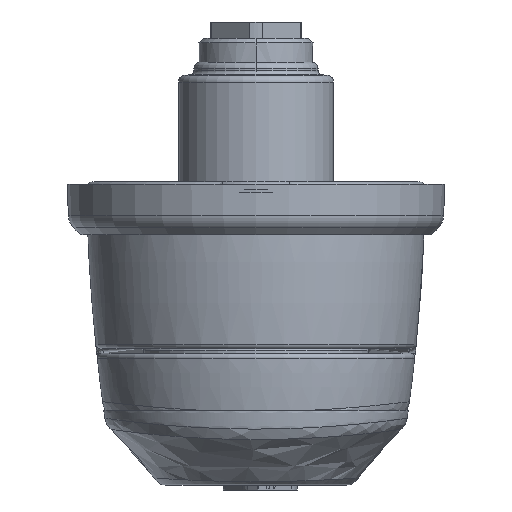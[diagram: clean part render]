
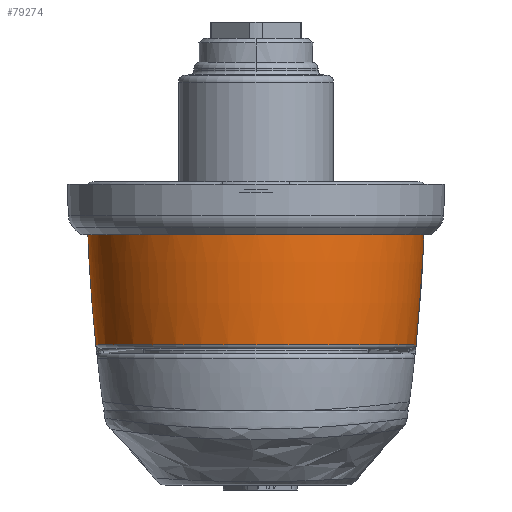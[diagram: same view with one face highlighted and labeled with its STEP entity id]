
A CAD part, front view. The second image highlights one B-rep face of the part: STEP entity #79274.
In plain terms, the highlighted toroidal (fillet/blend) face has major radius 181.375 mm and minor radius 200 mm.
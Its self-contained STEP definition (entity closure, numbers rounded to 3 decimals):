
#2574 = CARTESIAN_POINT ( 'NONE',  ( 181.375, 0., 27.08 ) ) ;
#6062 = CARTESIAN_POINT ( 'NONE',  ( 18.026, 0., 10.953 ) ) ;
#8600 = EDGE_CURVE ( 'NONE', #100307, #27678, #42098, .T. ) ;
#11956 = DIRECTION ( 'NONE',  ( 0., 0., -1. ) ) ;
#13257 = CARTESIAN_POINT ( 'NONE',  ( -17.558, 0., 6.448 ) ) ;
#13811 = TOROIDAL_SURFACE ( 'NONE', #53073, -181.375, 200. ) ;
#15404 = CARTESIAN_POINT ( 'NONE',  ( 18.34, 0., 15.474 ) ) ;
#16071 = DIRECTION ( 'NONE',  ( 0., 0., 1. ) ) ;
#19548 = DIRECTION ( 'NONE',  ( 0., 0., 1. ) ) ;
#21118 = ORIENTED_EDGE ( 'NONE', *, *, #54736, .T. ) ;
#24773 = CARTESIAN_POINT ( 'NONE',  ( 17.558, 0., 6.448 ) ) ;
#25026 = DIRECTION ( 'NONE',  ( 1., 0., 0. ) ) ;
#25446 = CARTESIAN_POINT ( 'NONE',  ( 0., 0., 27.08 ) ) ;
#27678 = VERTEX_POINT ( 'NONE', #116091 ) ;
#29332 = CIRCLE ( 'NONE', #93198, 18.5 ) ;
#33292 = CARTESIAN_POINT ( 'NONE',  ( 17.558, 0., 6.448 ) ) ;
#36831 = VERTEX_POINT ( 'NONE', #13257 ) ;
#37683 = CARTESIAN_POINT ( 'NONE',  ( 0., 0., 20. ) ) ;
#42098 = B_SPLINE_CURVE_WITH_KNOTS ( 'NONE', 3,
 ( #24773, #6062, #15404, #90096 ),
 .UNSPECIFIED., .F., .F.,
 ( 4, 4 ),
 ( 0.437, 1. ),
 .UNSPECIFIED. ) ;
#47067 = DIRECTION ( 'NONE',  ( 1., 0., 0. ) ) ;
#49707 = AXIS2_PLACEMENT_3D ( 'NONE', #2574, #67948, #11956 ) ;
#50986 = EDGE_LOOP ( 'NONE', ( #88700, #21118, #88624, #100218 ) ) ;
#52673 = EDGE_CURVE ( 'NONE', #81082, #27678, #29332, .T. ) ;
#53073 = AXIS2_PLACEMENT_3D ( 'NONE', #25446, #16071, #25026 ) ;
#54736 = EDGE_CURVE ( 'NONE', #36831, #100307, #79903, .T. ) ;
#56155 = CARTESIAN_POINT ( 'NONE',  ( -18.5, 0., 20. ) ) ;
#63102 = EDGE_CURVE ( 'NONE', #36831, #81082, #66365, .T. ) ;
#66365 = CIRCLE ( 'NONE', #49707, 200. ) ;
#67948 = DIRECTION ( 'NONE',  ( 0., 1., 0. ) ) ;
#75433 = CARTESIAN_POINT ( 'NONE',  ( 0., 0., 6.448 ) ) ;
#78466 = AXIS2_PLACEMENT_3D ( 'NONE', #75433, #19548, #84852 ) ;
#79274 = ADVANCED_FACE ( 'NONE', ( #88253 ), #13811, .T. ) ;
#79903 = CIRCLE ( 'NONE', #78466, 17.558 ) ;
#81082 = VERTEX_POINT ( 'NONE', #56155 ) ;
#84852 = DIRECTION ( 'NONE',  ( 1., 0., 0. ) ) ;
#88253 = FACE_OUTER_BOUND ( 'NONE', #50986, .T. ) ;
#88624 = ORIENTED_EDGE ( 'NONE', *, *, #8600, .T. ) ;
#88700 = ORIENTED_EDGE ( 'NONE', *, *, #63102, .F. ) ;
#90096 = CARTESIAN_POINT ( 'NONE',  ( 18.5, 0., 20. ) ) ;
#93198 = AXIS2_PLACEMENT_3D ( 'NONE', #37683, #102898, #47067 ) ;
#100218 = ORIENTED_EDGE ( 'NONE', *, *, #52673, .F. ) ;
#100307 = VERTEX_POINT ( 'NONE', #33292 ) ;
#102898 = DIRECTION ( 'NONE',  ( 0., 0., 1. ) ) ;
#116091 = CARTESIAN_POINT ( 'NONE',  ( 18.5, 0., 20. ) ) ;
